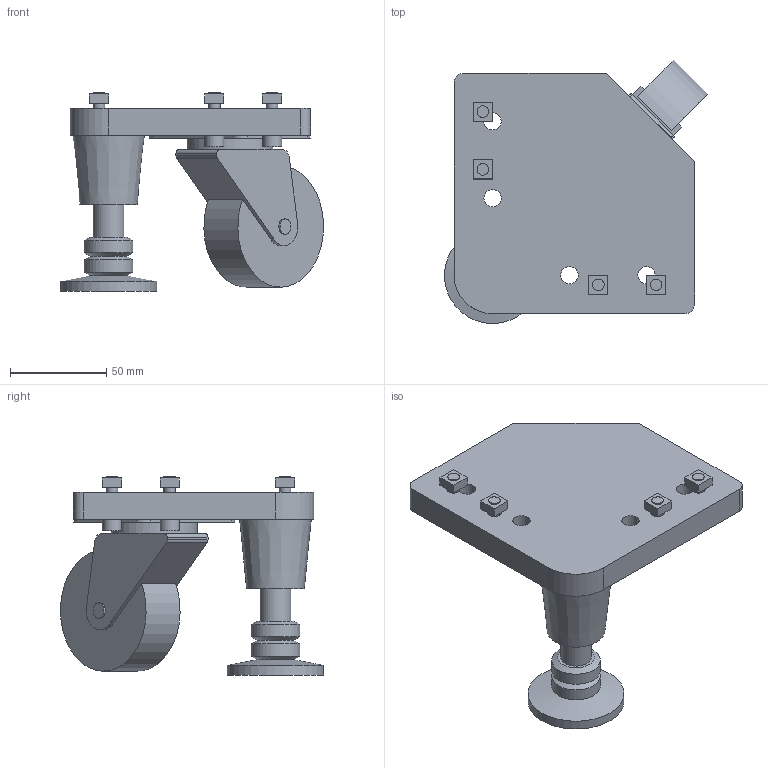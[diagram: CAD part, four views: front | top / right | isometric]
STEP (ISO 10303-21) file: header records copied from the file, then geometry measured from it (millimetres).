
FILE_DESCRIPTION((''),'2;1');
FILE_NAME('C:\Documents and Settings\古川典政\My Documents\Inventor\HP用\MasterData\ACCESSORY\M6\CU-130_M6.stp','2008-08-05T14:32:34',(''),(''),'Autodesk Inventor 2008','Autodesk Inventor 2008','');
FILE_SCHEMA(('CONFIG_CONTROL_DESIGN'));
Length unit declared in the file: millimetre
Products named in the file (10): CU-130_M6; CU-130_M61; CU-130_M62; CU-130_M63; CU-130_M64; CU-130_M65; CU-130_M66; CU-130_M67; CU-130_M68; CU-130_M69
Assembly tree (9 placements, depth 2):
  CU-130_M6
    CU-130_M61
    CU-130_M62
    CU-130_M63
    CU-130_M64
    CU-130_M65
    CU-130_M66
    CU-130_M67
    CU-130_M68
    CU-130_M69
Bounding box: 136.78 x 136.78 x 103 mm (x, y, z)
Volume: 380563.2 mm3; surface area: 66315.3 mm2
Topology: 9 solids, 9 shells, 110 faces, 245 edges, 163 vertices
Faces by surface type: plane 64, cylinder 32, bspline 8, cone 6
Full cylindrical faces by diameter (mm): 6 x4, 7 x1, 8 x2, 9 x1, 10 x4, 16 x1, 25.4 x2, 45 x1, 50 x1
Entity records: 3236 total; most frequent: CARTESIAN_POINT 620, DIRECTION 535, ORIENTED_EDGE 408, AXIS2_PLACEMENT_3D 210, EDGE_CURVE 204, EDGE_LOOP 169, VERTEX_POINT 151, VECTOR 115
